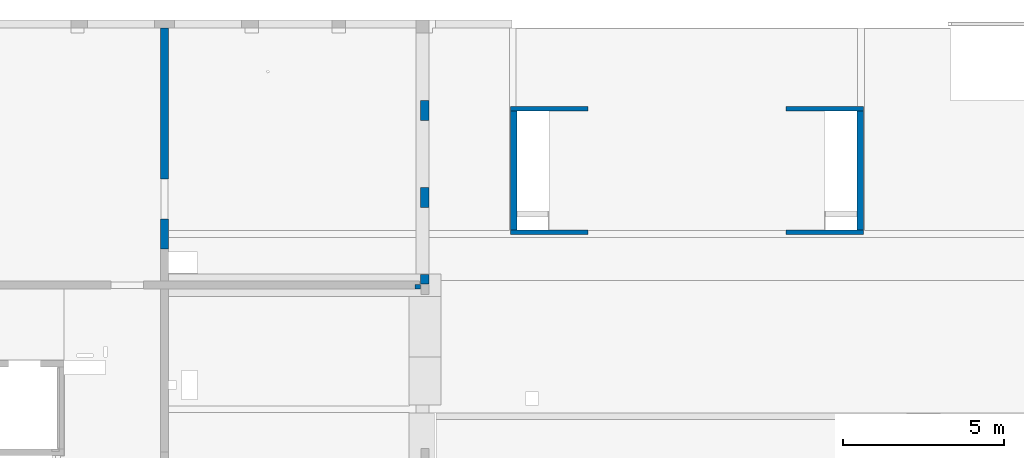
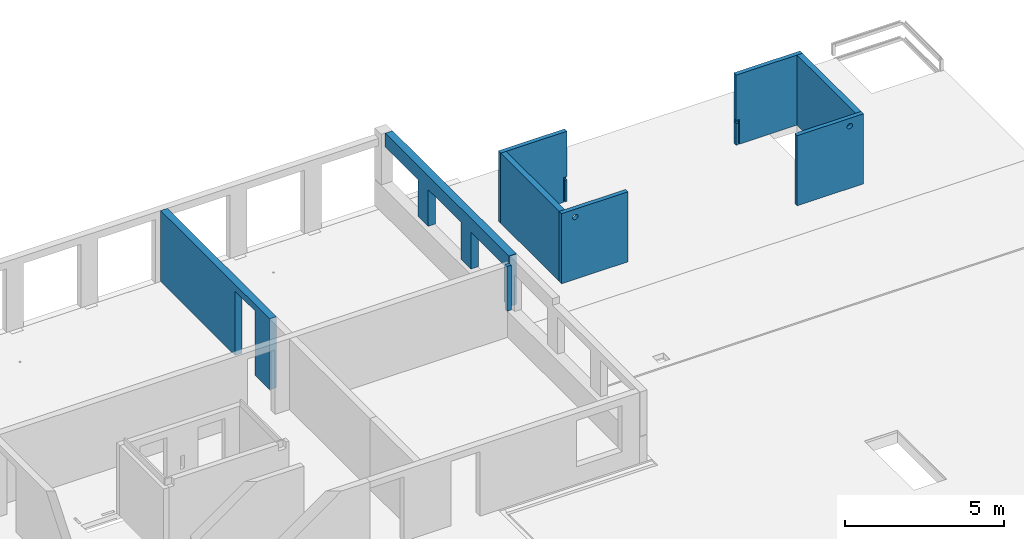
# One storey, part 23 of 36: 9 walls, 10 openings.
"""IFC2X3 building model written with IfcOpenShell, lengths in millimetres."""

from ifc_helpers import new_model, entity, si_unit, converted_unit, derived_unit, direction, frame, frame_2d, origin, origin_2d_with_axis, place, context, subcontext, project, spatial, rectangle, circle, extrude, material, layer, layer_set, layer_usage, type_object, element, save


model = new_model("IFC2X3")

# Units and contexts
model_context = context("Model", 3, precision=0.01, world=origin(), true_north=direction((6.12303176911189e-17, 1.0)))
body_context = subcontext(model_context, "Body", "Model", "MODEL_VIEW")
ifc_project = project(units=[si_unit("LENGTHUNIT", "METRE", prefix="MILLI"), si_unit("AREAUNIT", "SQUARE_METRE"), si_unit("VOLUMEUNIT", "CUBIC_METRE"), converted_unit("PLANEANGLEUNIT", "DEGREE", entity("IfcRatioMeasure", 0.0174532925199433), si_unit("PLANEANGLEUNIT", "RADIAN"), dimensions=[0, 0, 0, 0, 0, 0, 0]), si_unit("MASSUNIT", "GRAM", prefix="KILO"), derived_unit("MASSDENSITYUNIT", [(si_unit("MASSUNIT", "GRAM", prefix="KILO"), 1), (si_unit("LENGTHUNIT", "METRE"), -3)]), si_unit("TIMEUNIT", "SECOND"), si_unit("FREQUENCYUNIT", "HERTZ"), si_unit("THERMODYNAMICTEMPERATUREUNIT", "DEGREE_CELSIUS"), derived_unit("THERMALTRANSMITTANCEUNIT", [(si_unit("MASSUNIT", "GRAM", prefix="KILO"), 1), (si_unit("THERMODYNAMICTEMPERATUREUNIT", "KELVIN"), -1), (si_unit("TIMEUNIT", "SECOND"), -3)]), derived_unit("VOLUMETRICFLOWRATEUNIT", [(si_unit("LENGTHUNIT", "METRE"), 3), (si_unit("TIMEUNIT", "SECOND"), -1)]), si_unit("ELECTRICCURRENTUNIT", "AMPERE"), si_unit("ELECTRICVOLTAGEUNIT", "VOLT"), si_unit("POWERUNIT", "WATT"), si_unit("FORCEUNIT", "NEWTON", prefix="KILO"), si_unit("ILLUMINANCEUNIT", "LUX"), si_unit("LUMINOUSFLUXUNIT", "LUMEN"), si_unit("LUMINOUSINTENSITYUNIT", "CANDELA"), derived_unit("USERDEFINED", [(si_unit("MASSUNIT", "GRAM", prefix="KILO"), -1), (si_unit("LENGTHUNIT", "METRE"), -2), (si_unit("TIMEUNIT", "SECOND"), 3), (si_unit("LUMINOUSFLUXUNIT", "LUMEN"), 1)]), derived_unit("LINEARVELOCITYUNIT", [(si_unit("LENGTHUNIT", "METRE"), 1), (si_unit("TIMEUNIT", "SECOND"), -1)]), si_unit("PRESSUREUNIT", "PASCAL"), derived_unit("USERDEFINED", [(si_unit("LENGTHUNIT", "METRE"), -2), (si_unit("MASSUNIT", "GRAM", prefix="KILO"), 1), (si_unit("TIMEUNIT", "SECOND"), -2)])], contexts=[model_context])

# Site, building, storey
site_placement = place(None, origin())
site = spatial("IfcSite", under=ifc_project, at=site_placement, Name="Default", CompositionType="ELEMENT")
building_placement = place(site_placement, origin())
building = spatial("IfcBuilding", under=site, at=building_placement, Name="niet gebruiken", CompositionType="ELEMENT")
storey_placement = place(building_placement, frame((0.0, 0.0, 12600.0)))
storey = spatial("IfcBuildingStorey", under=building, at=storey_placement, Name="04 vierde verdieping", CompositionType="ELEMENT", Elevation=12600.0)

# Wall, opening
ifc_material_1 = material(Name="NLRS_f2_beton ihwg")
ifc_layer_1 = layer(ifc_material_1, 250.0)
ifc_layer_set_1 = layer_set([ifc_layer_1], Name="Basic Wall:NLRS_22.21_WA_beton ihwg d=250_gen")
ifc_layer_usage_1 = layer_usage(ifc_layer_set_1, "AXIS2", "NEGATIVE", 125.0)
wall_type_1 = type_object("IfcWallType", Name="Basic Wall:NLRS_22.21_WA_beton ihwg d=250_gen", PredefinedType="STANDARD", material=ifc_layer_set_1)
wall_1_placement = place(storey_placement, frame((97200.0, 53006.0, -90.0), z_axis=(0.0, 0.0, 1.0), x_axis=(0.0, -1.0, 0.0)))
wall_1 = element("IfcWallStandardCase", 1, at=wall_1_placement, inside=storey, type_object=wall_type_1, material=ifc_layer_usage_1, Name="Basic Wall:NLRS_22.21_WA_beton ihwg d=250_gen", ObjectType="Basic Wall:NLRS_22.21_WA_beton ihwg d=250_gen", context=body_context, shape_type="SweptSolid", body=[
    extrude(rectangle(XDim=6850.00000000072, YDim=250.000000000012, at=frame_2d((3425.00000000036, -1.10134124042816e-12), x_axis=(-1.0, 0.0))), origin(), (0.0, 0.0, 1.0), 2719.99999999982),
])
opening_1_placement = place(wall_1_placement, origin())
element("IfcOpeningElement", 2, at=opening_1_placement, cuts=wall_1, Name="Basic Wall:NLRS_22.21_WA_beton ihwg d=250_gen", ObjectType="Opening", context=body_context, shape_type="SweptSolid", body=[
    extrude(rectangle(XDim=2470.0, YDim=1240.0, at=frame_2d((0.0, -4.37694325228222e-12), x_axis=(1.0, 0.0))), frame((5300.0, -1649.0, 1235.0), z_axis=(0.0, 1.0, 0.0), x_axis=(0.0, 0.0, 1.0)), (0.0, 0.0, 1.0), 3048.0),
])

# Wall, openings
ifc_layer_2 = layer(ifc_material_1, 150.0)
ifc_layer_set_2 = layer_set([ifc_layer_2], Name="Basic Wall:NLRS_21.21_WA_beton ihwg d=150_gen")
ifc_layer_usage_2 = layer_usage(ifc_layer_set_2, "AXIS2", "NEGATIVE", 75.0)
wall_type_2 = type_object("IfcWallType", Name="Basic Wall:NLRS_21.21_WA_beton ihwg d=150_gen", PredefinedType="STANDARD", material=ifc_layer_set_2)
wall_2_placement = place(storey_placement, frame((116470.0, 50501.0, -90.0)))
wall_2 = element("IfcWallStandardCase", 3, at=wall_2_placement, inside=storey, type_object=wall_type_2, material=ifc_layer_usage_2, Name="Basic Wall:NLRS_21.21_WA_beton ihwg d=150_gen", ObjectType="Basic Wall:NLRS_21.21_WA_beton ihwg d=150_gen", context=body_context, shape_type="SweptSolid", body=[
    extrude(rectangle(XDim=2405.00000000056, YDim=150.000000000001, at=frame_2d((1202.50000000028, 5.6843418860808e-14), x_axis=(-1.0, 0.0))), origin(), (0.0, 0.0, 1.0), 2690.0),
])
opening_2_placement = place(wall_2_placement, origin())
element("IfcOpeningElement", 4, at=opening_2_placement, cuts=wall_2, Name="Basic Wall:NLRS_21.21_WA_beton ihwg d=150_gen", ObjectType="Recess", context=body_context, shape_type="SweptSolid", body=[
    extrude(rectangle(XDim=120.000000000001, YDim=124.999999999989, at=frame_2d((0.0, -1.08357767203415e-12), x_axis=(0.0, 1.0))), frame((62.499999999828, -75.0, 890.0), z_axis=(0.0, 1.0, 0.0), x_axis=(1.0, 0.0, 0.0)), (0.0, 0.0, 1.0), 75.0000000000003),
])
opening_3_placement = place(wall_2_placement, origin())
element("IfcOpeningElement", 5, at=opening_3_placement, cuts=wall_2, Name="Basic Wall:NLRS_21.21_WA_beton ihwg d=150_gen", ObjectType="Recess", context=body_context, shape_type="SweptSolid", body=[
    extrude(rectangle(XDim=830.0, YDim=49.9999999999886, at=frame_2d((0.0, 1.08002495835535e-12), x_axis=(0.0, 1.0))), frame((100.0, -75.0, 415.0), z_axis=(0.0, 1.0, 0.0), x_axis=(1.0, 0.0, 0.0)), (0.0, 0.0, 1.0), 40.0000000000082),
])

# Wall, opening
ifc_layer_usage_3 = layer_usage(ifc_layer_set_2, "AXIS2", "NEGATIVE", 75.0)
wall_3_placement = place(storey_placement, frame((116470.0, 46671.0, -90.0)))
wall_3 = element("IfcWallStandardCase", 6, at=wall_3_placement, inside=storey, type_object=wall_type_2, material=ifc_layer_usage_3, Name="Basic Wall:NLRS_21.21_WA_beton ihwg d=150_gen", ObjectType="Basic Wall:NLRS_21.21_WA_beton ihwg d=150_gen", context=body_context, shape_type="SweptSolid", body=[
    extrude(rectangle(XDim=2405.00000000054, YDim=150.000000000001, at=frame_2d((1202.50000000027, 5.6843418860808e-14), x_axis=(-1.0, 0.0))), origin(), (0.0, 0.0, 1.0), 2690.0),
])
opening_4_placement = place(wall_3_placement, origin())
element("IfcOpeningElement", 7, at=opening_4_placement, cuts=wall_3, Name="Basic Wall:NLRS_21.21_WA_beton ihwg d=150_gen", ObjectType="Opening", context=body_context, shape_type="SweptSolid", body=[
    extrude(circle(Radius=100.0, at=origin_2d_with_axis()), frame((1910.0, -75.0, 2390.0), z_axis=(0.0, 1.0, 0.0), x_axis=(1.0, 0.0, 0.0)), (0.0, 0.0, 1.0), 150.000000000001),
])

# Wall, openings
ifc_layer_usage_4 = layer_usage(ifc_layer_set_2, "AXIS2", "POSITIVE", -75.0)
wall_4_placement = place(storey_placement, frame((110330.0, 50501.0, -90.0), z_axis=(0.0, 0.0, 1.0), x_axis=(-1.0, 0.0, 0.0)))
wall_4 = element("IfcWallStandardCase", 8, at=wall_4_placement, inside=storey, type_object=wall_type_2, material=ifc_layer_usage_4, Name="Basic Wall:NLRS_21.21_WA_beton ihwg d=150_gen", ObjectType="Basic Wall:NLRS_21.21_WA_beton ihwg d=150_gen", context=body_context, shape_type="SweptSolid", body=[
    extrude(rectangle(XDim=2405.00000000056, YDim=150.000000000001, at=frame_2d((1202.50000000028, -4.9737991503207e-14), x_axis=(-1.0, 0.0))), origin(), (0.0, 0.0, 1.0), 2690.0),
])
opening_5_placement = place(wall_4_placement, origin())
element("IfcOpeningElement", 9, at=opening_5_placement, cuts=wall_4, Name="Basic Wall:NLRS_21.21_WA_beton ihwg d=150_gen", ObjectType="Recess", context=body_context, shape_type="SweptSolid", body=[
    extrude(rectangle(XDim=830.0, YDim=50.000000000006, at=frame_2d((-1.08002495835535e-12, 0.0), x_axis=(1.0, 0.0))), frame((100.0, 35.0, 415.0), z_axis=(0.0, 1.0, 0.0), x_axis=(0.0, 0.0, -1.0)), (0.0, 0.0, 1.0), 40.0000000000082),
])
opening_6_placement = place(wall_4_placement, origin())
element("IfcOpeningElement", 10, at=opening_6_placement, cuts=wall_4, Name="Basic Wall:NLRS_21.21_WA_beton ihwg d=150_gen", ObjectType="Recess", context=body_context, shape_type="SweptSolid", body=[
    extrude(rectangle(XDim=120.000000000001, YDim=125.000000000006, at=frame_2d((-1.08357767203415e-12, 0.0), x_axis=(1.0, 0.0))), frame((62.500000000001, 0.0, 890.0), z_axis=(0.0, 1.0, 0.0), x_axis=(0.0, 0.0, -1.0)), (0.0, 0.0, 1.0), 75.0000000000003),
])

# Wall, opening
ifc_layer_usage_5 = layer_usage(ifc_layer_set_2, "AXIS2", "POSITIVE", -75.0)
wall_5_placement = place(storey_placement, frame((110330.0, 46671.0, -90.0), z_axis=(0.0, 0.0, 1.0), x_axis=(-1.0, 0.0, 0.0)))
wall_5 = element("IfcWallStandardCase", 11, at=wall_5_placement, inside=storey, type_object=wall_type_2, material=ifc_layer_usage_5, Name="Basic Wall:NLRS_21.21_WA_beton ihwg d=150_gen", ObjectType="Basic Wall:NLRS_21.21_WA_beton ihwg d=150_gen", context=body_context, shape_type="SweptSolid", body=[
    extrude(rectangle(XDim=2405.00000000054, YDim=150.000000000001, at=frame_2d((1202.50000000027, -4.9737991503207e-14), x_axis=(-1.0, 0.0))), origin(), (0.0, 0.0, 1.0), 2690.0),
])
opening_7_placement = place(wall_5_placement, origin())
element("IfcOpeningElement", 12, at=opening_7_placement, cuts=wall_5, Name="Basic Wall:NLRS_21.21_WA_beton ihwg d=150_gen", ObjectType="Opening", context=body_context, shape_type="SweptSolid", body=[
    extrude(circle(Radius=100.0, at=origin_2d_with_axis()), frame((1910.0, -75.0, 2390.0), z_axis=(0.0, 1.0, 0.0), x_axis=(1.0, 0.0, 0.0)), (0.0, 0.0, 1.0), 150.000000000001),
])

# Walls
ifc_layer_3 = layer(ifc_material_1, 200.0)
ifc_layer_set_3 = layer_set([ifc_layer_3], Name="Basic Wall:NLRS_21.21_WA_beton ihwg d=200_gen")
ifc_layer_usage_6 = layer_usage(ifc_layer_set_3, "AXIS2", "NEGATIVE", 100.0)
wall_type_3 = type_object("IfcWallType", Name="Basic Wall:NLRS_21.21_WA_beton ihwg d=200_gen", PredefinedType="STANDARD", material=ifc_layer_set_3)
wall_6_placement = place(storey_placement, frame((118775.0, 50426.0, -90.0), z_axis=(0.0, 0.0, 1.0), x_axis=(0.0, -1.0, 0.0)))
element("IfcWallStandardCase", 13, at=wall_6_placement, inside=storey, type_object=wall_type_3, material=ifc_layer_usage_6, Name="Basic Wall:NLRS_21.21_WA_beton ihwg d=200_gen", ObjectType="Basic Wall:NLRS_21.21_WA_beton ihwg d=200_gen", context=body_context, shape_type="SweptSolid", body=[
    extrude(rectangle(XDim=3679.99999999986, YDim=199.999999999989, at=frame_2d((1839.99999999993, 3.16902060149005e-12), x_axis=(-1.0, 0.0))), origin(), (0.0, 0.0, 1.0), 2690.0),
])
ifc_layer_usage_7 = layer_usage(ifc_layer_set_3, "AXIS2", "POSITIVE", -100.0)
wall_7_placement = place(storey_placement, frame((108025.0, 50426.0, -90.0), z_axis=(0.0, 0.0, 1.0), x_axis=(0.0, -1.0, 0.0)))
element("IfcWallStandardCase", 14, at=wall_7_placement, inside=storey, type_object=wall_type_3, material=ifc_layer_usage_7, Name="Basic Wall:NLRS_21.21_WA_beton ihwg d=200_gen", ObjectType="Basic Wall:NLRS_21.21_WA_beton ihwg d=200_gen", context=body_context, shape_type="SweptSolid", body=[
    extrude(rectangle(XDim=3679.99999999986, YDim=199.999999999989, at=frame_2d((1839.99999999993, -3.16191517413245e-12), x_axis=(-1.0, 0.0))), origin(), (0.0, 0.0, 1.0), 2690.0),
])

# Wall, openings
ifc_material_2 = material(Name="NLRS_f2_beton prefab")
ifc_layer_4 = layer(ifc_material_2, 270.0)
ifc_layer_set_4 = layer_set([ifc_layer_4], Name="Basic Wall:NLRS_21.21_WA_beton prefab d=270_gen")
ifc_layer_usage_8 = layer_usage(ifc_layer_set_4, "AXIS2", "NEGATIVE", 135.0)
wall_type_4 = type_object("IfcWallType", Name="Basic Wall:NLRS_21.21_WA_beton prefab d=270_gen", PredefinedType="STANDARD", material=ifc_layer_set_4)
wall_8_placement = place(storey_placement, frame((105265.0, 52846.0, 940.0), z_axis=(0.0, 0.0, 1.0), x_axis=(0.0, -1.0, 0.0)))
wall_8 = element("IfcWallStandardCase", 15, at=wall_8_placement, inside=storey, type_object=wall_type_4, material=ifc_layer_usage_8, Name="Basic Wall:NLRS_21.21_WA_beton prefab d=270_gen", ObjectType="Basic Wall:NLRS_21.21_WA_beton prefab d=270_gen", context=body_context, shape_type="SweptSolid", body=[
    extrude(rectangle(XDim=7780.00000000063, YDim=270.000000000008, at=frame_2d((3890.00000000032, 0.0), x_axis=(-1.0, 0.0))), origin(), (0.0, 0.0, 1.0), 1940.0),
])
opening_8_placement = place(wall_8_placement, origin())
element("IfcOpeningElement", 16, at=opening_8_placement, cuts=wall_8, Name="Basic Wall:NLRS_21.21_WA_beton prefab d=270_gen", ObjectType="Opening", context=body_context, shape_type="SweptSolid", body=[
    extrude(rectangle(XDim=1420.0, YDim=2080.0, at=frame_2d((0.0, 0.0), x_axis=(0.0, 1.0))), frame((1040.0, -1389.0, 700.0), z_axis=(0.0, 1.0, 0.0), x_axis=(-1.0, 0.0, 0.0)), (0.0, 0.0, 1.0), 3048.0),
])
opening_9_placement = place(wall_8_placement, origin())
element("IfcOpeningElement", 17, at=opening_9_placement, cuts=wall_8, Name="Basic Wall:NLRS_21.21_WA_beton prefab d=270_gen", ObjectType="Opening", context=body_context, shape_type="SweptSolid", body=[
    extrude(rectangle(XDim=1420.0, YDim=2080.0, at=frame_2d((0.0, 0.0), x_axis=(0.0, 1.0))), frame((3740.0, -1389.0, 700.0), z_axis=(0.0, 1.0, 0.0), x_axis=(-1.0, 0.0, 0.0)), (0.0, 0.0, 1.0), 3048.0),
])
opening_10_placement = place(wall_8_placement, origin())
element("IfcOpeningElement", 18, at=opening_10_placement, cuts=wall_8, Name="Basic Wall:NLRS_21.21_WA_beton prefab d=270_gen", ObjectType="Opening", context=body_context, shape_type="SweptSolid", body=[
    extrude(rectangle(XDim=1420.0, YDim=2080.0, at=frame_2d((0.0, 0.0), x_axis=(0.0, 1.0))), frame((6440.0, -1389.0, 700.0), z_axis=(0.0, 1.0, 0.0), x_axis=(-1.0, 0.0, 0.0)), (0.0, 0.0, 1.0), 3048.0),
])

# Wall
ifc_layer_5 = layer(ifc_material_1, 140.0)
ifc_layer_set_5 = layer_set([ifc_layer_5], Name="Basic Wall:NLRS_22.21_WA_beton ihwg d=140_gen")
ifc_layer_usage_9 = layer_usage(ifc_layer_set_5, "AXIS2", "NEGATIVE", 70.0)
wall_type_5 = type_object("IfcWallType", Name="Basic Wall:NLRS_22.21_WA_beton ihwg d=140_gen", PredefinedType="STANDARD", material=ifc_layer_set_5)
wall_9_placement = place(storey_placement, frame((104970.0, 44976.0, 910.0)))
element("IfcWallStandardCase", 19, at=wall_9_placement, inside=storey, type_object=wall_type_5, material=ifc_layer_usage_9, Name="Basic Wall:NLRS_22.21_WA_beton ihwg d=140_gen", ObjectType="Basic Wall:NLRS_22.21_WA_beton ihwg d=140_gen", context=body_context, shape_type="SweptSolid", body=[
    extrude(rectangle(XDim=159.999999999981, YDim=140.000000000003, at=frame_2d((79.9999999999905, 0.0), x_axis=(-1.0, 0.0))), origin(), (0.0, 0.0, 1.0), 1719.99999999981),
])

save(model, "model.ifc")
